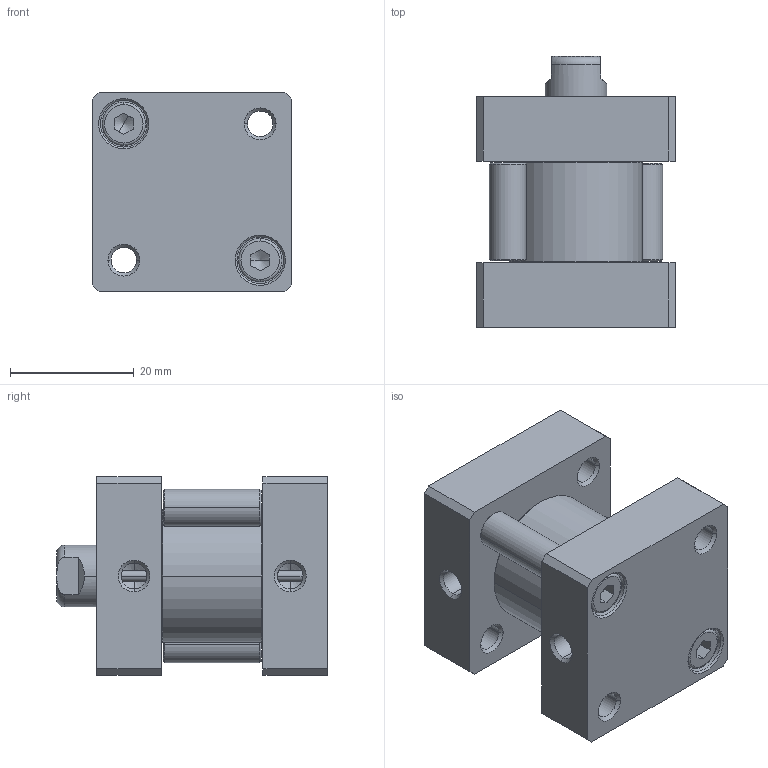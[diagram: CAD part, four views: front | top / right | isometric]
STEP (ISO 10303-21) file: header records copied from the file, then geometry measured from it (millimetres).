
FILE_DESCRIPTION(('STEP AP203'),'1');
FILE_NAME('84M20G000 - course 0mm.stp','2022-05-30T09:21:17',(' '),(' '),'Spatial InterOp 3D',' ',' ');
FILE_SCHEMA(('CONFIG_CONTROL_DESIGN'));
Length unit declared in the file: metre
Products named in the file (6): 84M20G000 - course 0mm; TP; TA; TIRANTE-000; CORPO-000; STELO-000
Assembly tree (6 placements, depth 2):
  84M20G000 - course 0mm
    TP
    TA
    TIRANTE-000  x2
    CORPO-000
    STELO-000
Bounding box: 32 x 43.7 x 32 mm (x, y, z)
Volume: 22331.4 mm3; surface area: 13025.7 mm2
Topology: 6 solids, 7 shells, 248 faces, 594 edges, 359 vertices
Faces by surface type: cone 100, plane 68, cylinder 62, torus 18
Entity records: 7854 total; most frequent: CARTESIAN_POINT 2024, DIRECTION 1230, ORIENTED_EDGE 1104, EDGE_CURVE 552, AXIS2_PLACEMENT_3D 489, VERTEX_POINT 343, EDGE_LOOP 267, LINE 252
